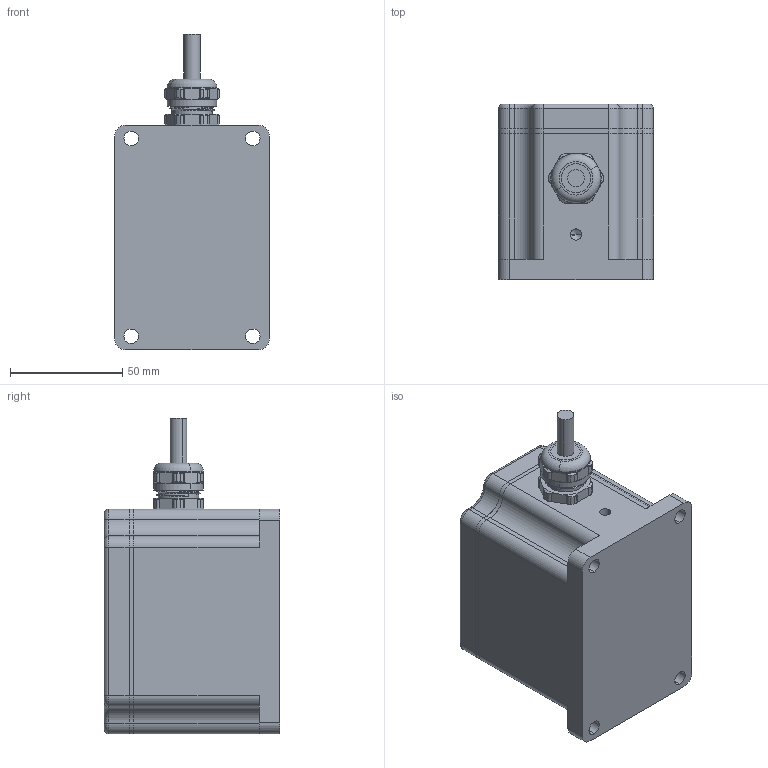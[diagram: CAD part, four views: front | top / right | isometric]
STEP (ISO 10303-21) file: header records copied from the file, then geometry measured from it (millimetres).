
FILE_DESCRIPTION (( 'STEP AP214' ), '1' );
FILE_NAME ('ACx-xxx-x-xxxx-xxx-xx-xxx.STEP', '2017-10-06T09:06:45', ( '' ), ( '' ), 'SwSTEP 2.0', 'SolidWorks 2017', '' );
FILE_SCHEMA (( 'AUTOMOTIVE_DESIGN' ));
Length unit declared in the file: millimetre
Products named in the file (1): ACx-xxx-x-xxxx-xxx-xx-xxx
Bounding box: 69 x 78 x 140.4 mm (x, y, z)
Volume: 274275.4 mm3; surface area: 87350 mm2
Topology: 15 solids, 15 shells, 550 faces, 1412 edges, 894 vertices
Faces by surface type: cylinder 272, plane 150, cone 64, bspline 46, torus 18
Entity records: 25221 total; most frequent: CARTESIAN_POINT 6014, ORIENTED_EDGE 2760, DIRECTION 2680, EDGE_CURVE 1380, AXIS2_PLACEMENT_3D 1061, VERTEX_POINT 894, EDGE_LOOP 616, UNCERTAINTY_MEASURE_WITH_UNIT 567
